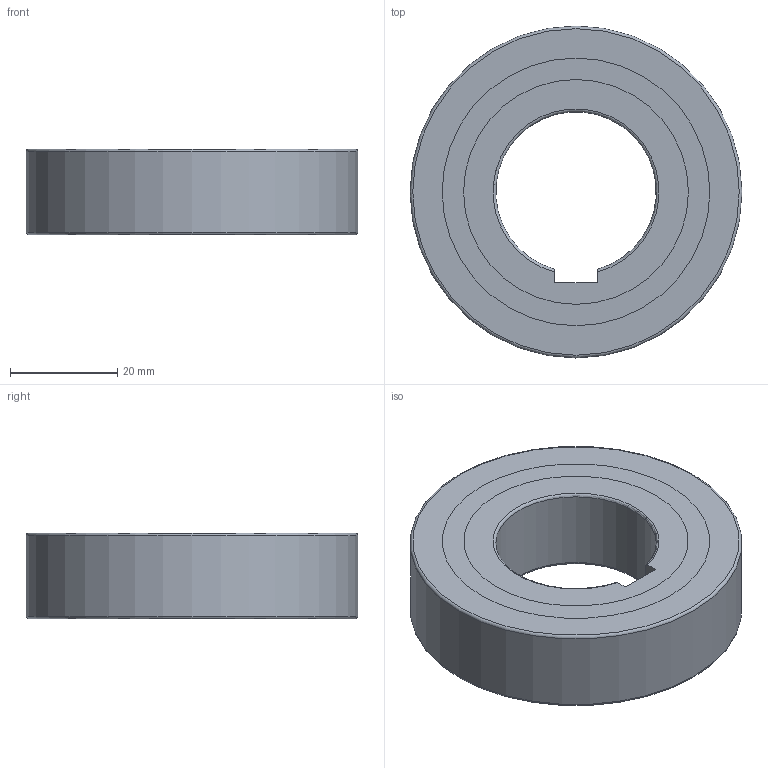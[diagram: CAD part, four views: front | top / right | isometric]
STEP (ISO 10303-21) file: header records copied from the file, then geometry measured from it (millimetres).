
FILE_DESCRIPTION(/* description */ (''),/* implementation_level */ '2;1');
FILE_NAME(/* name */ '301145 FKN 6206.stp',/* time_stamp */ '2016-11-24T08:24:43+01:00',/* author */ (''),/* organization */ (''),/* preprocessor_version */ 'ST-DEVELOPER v15',/* originating_system */ 'SIEMENS PLM Software NX 8.5',/* authorisation */ '');
FILE_SCHEMA (('CONFIG_CONTROL_DESIGN'));
Length unit declared in the file: millimetre
Products named in the file (3): ATE0000079_01; ATE0000110_01; ATE0000111_01
Assembly tree (2 placements, depth 2):
  ATE0000111_01
    ATE0000110_01
    ATE0000079_01
Bounding box: 62 x 62 x 16 mm (x, y, z)
Volume: 31741.2 mm3; surface area: 18298.2 mm2
Topology: 4 solids, 4 shells, 75 faces, 167 edges, 110 vertices
Faces by surface type: plane 47, cylinder 22, torus 6
Full cylindrical faces by diameter (mm): 42 x4, 46 x1, 48 x1, 49 x2, 50 x4, 62 x1
Entity records: 2323 total; most frequent: CARTESIAN_POINT 393, DIRECTION 358, ORIENTED_EDGE 284, EDGE_CURVE 142, AXIS2_PLACEMENT_3D 142, EDGE_LOOP 112, VERTEX_POINT 104, ADVANCED_FACE 75
